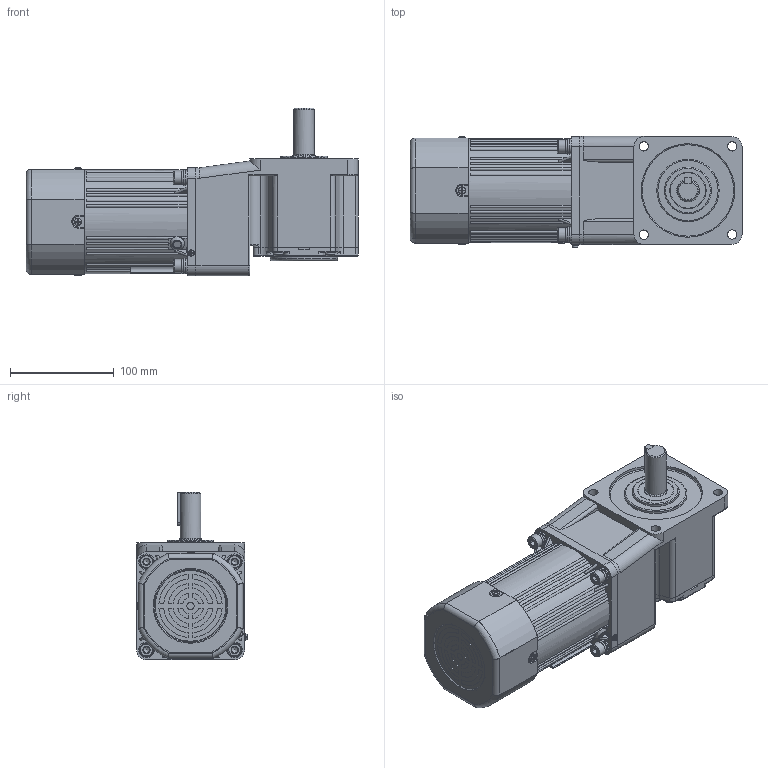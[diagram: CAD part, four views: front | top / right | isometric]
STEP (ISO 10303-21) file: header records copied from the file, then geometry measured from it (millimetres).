
FILE_DESCRIPTION(/* description */ (''),/* implementation_level */ '2;1');
FILE_NAME(/* name */ '100+直角中实-刹车风叶-120-140W 新版.stp',/* time_stamp */ '2025-03-25T15:04:47+08:00',/* author */ (''),/* organization */ (''),/* preprocessor_version */ 'ST-DEVELOPER v18.102',/* originating_system */ 'SIEMENS PLM Software NX 2027',/* authorisation */ '');
FILE_SCHEMA (('AP203_CONFIGURATION_CONTROLLED_3D_DESIGN_OF_MECHANICAL_PARTS_AND_ASSEMBLIES_MIM_LF { 1 0 10303 403 2 1 2}'));
Length unit declared in the file: millimetre
Products named in the file (1): 6RK120-140CC·MF_6GU3-750K-C·15L_stp_M066166857A1n
lhu
Bounding box: 319.5 x 106.83 x 161.53 mm (x, y, z)
Volume: 3088867.3 mm3; surface area: 394773 mm2
Topology: 25 solids, 25 shells, 1700 faces, 4383 edges, 2837 vertices
Faces by surface type: plane 743, cylinder 527, bspline 212, torus 101, cone 93, sphere 24
Full cylindrical faces by diameter (mm): 2.6 x2, 2.7 x1, 3 x3, 3.2 x2, 3.3 x4, 3.5 x4, 3.6 x4, 4 x4, 4.55 x2, 5.1 x2, 5.15 x2, 6 x10, 6.8 x12, 7 x2, 7.5 x2, 7.76 x4, 8.4 x4, 9 x13, 9.3 x1, 9.5 x4, 13 x4, 14 x8, 15 x5, 15.5 x2, 19 x2, 20 x1, 22 x1, 27 x1, 28 x1, 30 x3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
Entity records: 52490 total; most frequent: CARTESIAN_POINT 13237, ORIENTED_EDGE 7996, DIRECTION 7693, EDGE_CURVE 3998, AXIS2_PLACEMENT_3D 3043, VERTEX_POINT 2704, EDGE_LOOP 2141, ADVANCED_FACE 1699
